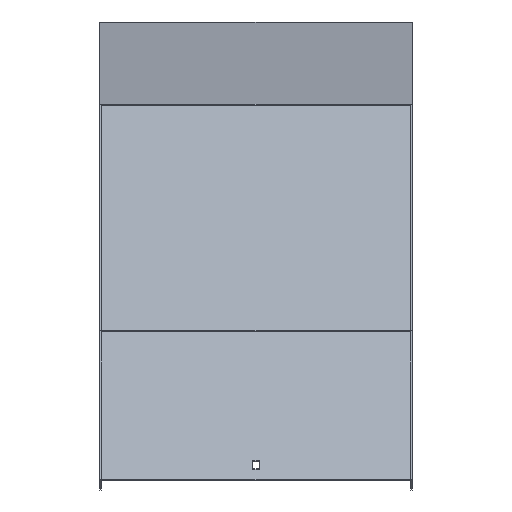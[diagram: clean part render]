
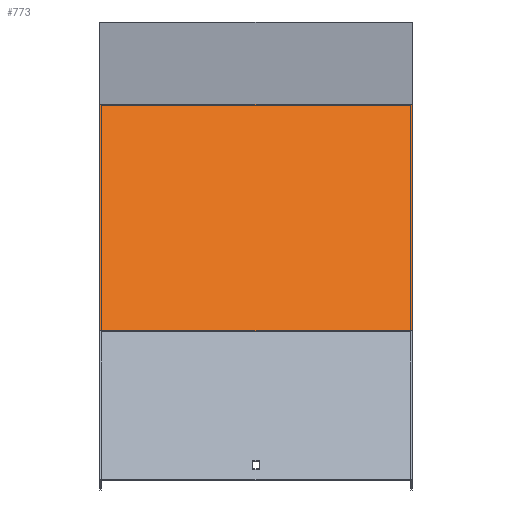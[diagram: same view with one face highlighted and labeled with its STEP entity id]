
A CAD part, top view. The second image highlights one B-rep face of the part: STEP entity #773.
In plain terms, the highlighted planar face has unit normal (0, 0.707, 0.707).
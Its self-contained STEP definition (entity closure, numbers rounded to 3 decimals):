
#5 = VERTEX_POINT ( 'NONE', #559 ) ;
#52 = CARTESIAN_POINT ( 'NONE',  ( 151.5, -64.28, 470.818 ) ) ;
#151 = CARTESIAN_POINT ( 'NONE',  ( 151.5, -280.395, 686.933 ) ) ;
#175 = ORIENTED_EDGE ( 'NONE', *, *, #831, .T. ) ;
#197 = LINE ( 'NONE', #272, #671 ) ;
#200 = VERTEX_POINT ( 'NONE', #560 ) ;
#264 = CARTESIAN_POINT ( 'NONE',  ( 151.5, -280.395, 686.933 ) ) ;
#272 = CARTESIAN_POINT ( 'NONE',  ( 151.5, -64.28, 470.818 ) ) ;
#289 = DIRECTION ( 'NONE',  ( 0., 0.707, -0.707 ) ) ;
#369 = LINE ( 'NONE', #677, #507 ) ;
#392 = AXIS2_PLACEMENT_3D ( 'NONE', #52, #827, #289 ) ;
#419 = DIRECTION ( 'NONE',  ( 0., -0.707, 0.707 ) ) ;
#425 = DIRECTION ( 'NONE',  ( -1., 0., 0. ) ) ;
#455 = VECTOR ( 'NONE', #803, 1000. ) ;
#507 = VECTOR ( 'NONE', #419, 1000. ) ;
#510 = LINE ( 'NONE', #642, #930 ) ;
#523 = PLANE ( 'NONE',  #392 ) ;
#559 = CARTESIAN_POINT ( 'NONE',  ( 151.5, -60.491, 467.028 ) ) ;
#560 = CARTESIAN_POINT ( 'NONE',  ( -151.5, -280.395, 686.933 ) ) ;
#613 = ORIENTED_EDGE ( 'NONE', *, *, #771, .F. ) ;
#633 = EDGE_LOOP ( 'NONE', ( #825, #613, #737, #175 ) ) ;
#642 = CARTESIAN_POINT ( 'NONE',  ( 151.5, -60.491, 467.028 ) ) ;
#671 = VECTOR ( 'NONE', #939, 1000. ) ;
#677 = CARTESIAN_POINT ( 'NONE',  ( -151.5, -64.28, 470.818 ) ) ;
#698 = EDGE_CURVE ( 'NONE', #5, #952, #197, .T. ) ;
#737 = ORIENTED_EDGE ( 'NONE', *, *, #698, .F. ) ;
#771 = EDGE_CURVE ( 'NONE', #952, #200, #946, .T. ) ;
#773 = ADVANCED_FACE ( 'NONE', ( #968 ), #523, .F. ) ;
#803 = DIRECTION ( 'NONE',  ( -1., 0., 0. ) ) ;
#825 = ORIENTED_EDGE ( 'NONE', *, *, #845, .T. ) ;
#827 = DIRECTION ( 'NONE',  ( 0., -0.707, -0.707 ) ) ;
#831 = EDGE_CURVE ( 'NONE', #5, #898, #510, .T. ) ;
#835 = CARTESIAN_POINT ( 'NONE',  ( -151.5, -60.491, 467.028 ) ) ;
#845 = EDGE_CURVE ( 'NONE', #898, #200, #369, .T. ) ;
#898 = VERTEX_POINT ( 'NONE', #835 ) ;
#930 = VECTOR ( 'NONE', #425, 1000. ) ;
#939 = DIRECTION ( 'NONE',  ( 0., -0.707, 0.707 ) ) ;
#946 = LINE ( 'NONE', #264, #455 ) ;
#952 = VERTEX_POINT ( 'NONE', #151 ) ;
#968 = FACE_OUTER_BOUND ( 'NONE', #633, .T. ) ;
